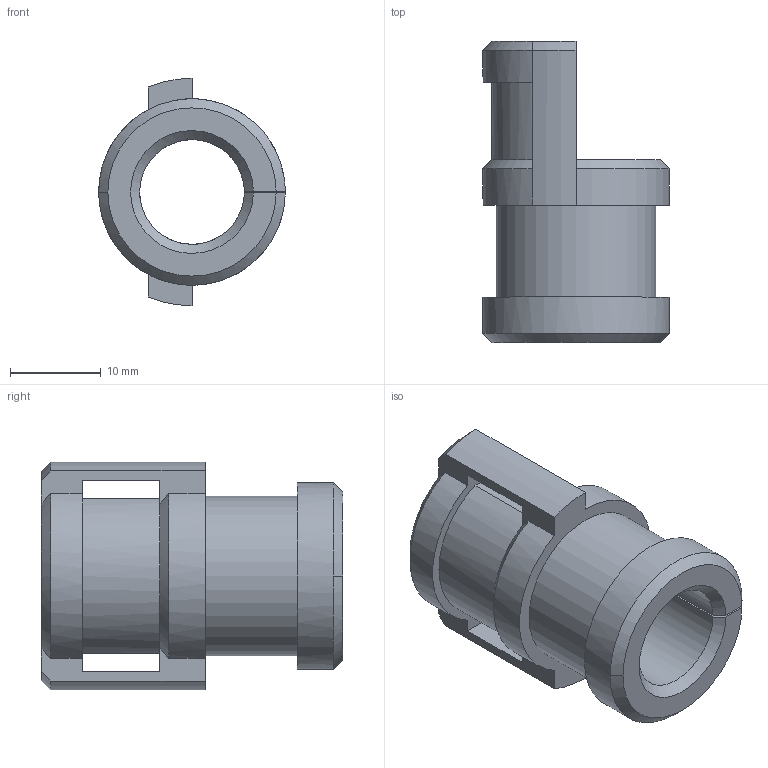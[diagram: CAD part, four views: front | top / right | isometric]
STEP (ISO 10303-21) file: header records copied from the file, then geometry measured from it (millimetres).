
FILE_DESCRIPTION (( 'STEP AP203' ), '1' );
FILE_NAME ('KDT-Z 10.STEP', '2022-10-14T09:24:54', ( '' ), ( '' ), 'SwSTEP 2.0', 'SolidWorks 2016', '' );
FILE_SCHEMA (( 'CONFIG_CONTROL_DESIGN' ));
Length unit declared in the file: millimetre
Products named in the file (1): KDT-Z 10
Bounding box: 20.5 x 33.1 x 25 mm (x, y, z)
Volume: 5044.6 mm3; surface area: 3706.8 mm2
Topology: 1 solids, 1 shells, 40 faces, 124 edges, 82 vertices
Faces by surface type: plane 17, cone 12, cylinder 11
Entity records: 1814 total; most frequent: CARTESIAN_POINT 663, ORIENTED_EDGE 248, DIRECTION 199, EDGE_CURVE 124, VERTEX_POINT 82, LINE 67, VECTOR 67, AXIS2_PLACEMENT_3D 66
